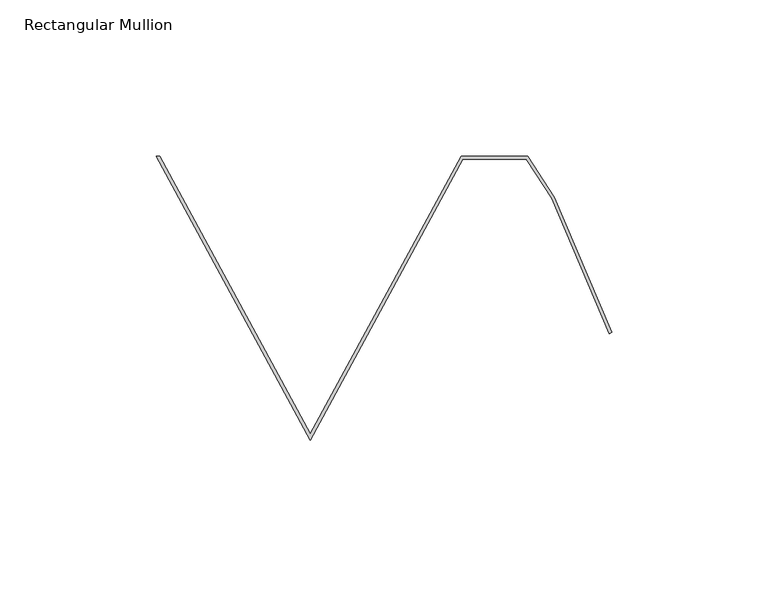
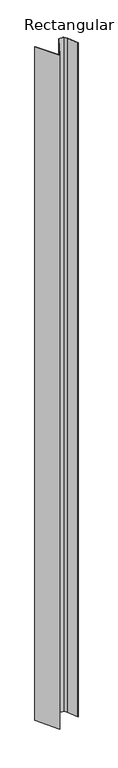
"""IFC4 building model written with IfcOpenShell, lengths in millimetres: member geometry, Rectangular Mullion : CD_NINELINE_Pleat Start."""

import ifcopenshell
import ifcopenshell.guid

model = None  # the IFC model being written
_history = None  # IfcOwnerHistory: only IFC2X3 demands one
_inside = {}  # id of a spatial element -> (the spatial element, [elements in it])
_under = {}  # id of a project, library or spatial element -> (it, [spatial elements below it])
_declared = {}  # id of a project -> (the project, [libraries it declares])
_typed = {}  # id of a type object -> (the type object, [elements of that type])
_made_of = {}  # id of a material, layer set ... -> (it, [elements and type objects made of it])


def new_model(schema):
    """Start an empty IFC model of exactly this schema.

    Asked for "IFC4X3", IfcOpenShell would pick the latest addendum, in which some entities
    have other attributes; the version numbers below select the first issue.
    IFC2X3 requires an IfcOwnerHistory on every rooted entity: one is made here for all.
    """
    global model, _history
    if schema == "IFC4X3":
        model = ifcopenshell.file(schema_version=(4, 3, 0, 0))
    else:
        model = ifcopenshell.file(schema=schema)
    _inside.clear()
    _under.clear()
    _declared.clear()
    _typed.clear()
    _made_of.clear()
    _history = None
    if model.schema == "IFC2X3":
        org = make("IfcOrganization", Name="unknown")
        user = make(
            "IfcPersonAndOrganization",
            ThePerson=make("IfcPerson", FamilyName="unknown"),
            TheOrganization=org,
        )
        app = make(
            "IfcApplication",
            ApplicationDeveloper=org,
            Version="unknown",
            ApplicationFullName="unknown",
            ApplicationIdentifier="unknown",
        )
        _history = make(
            "IfcOwnerHistory",
            OwningUser=user,
            OwningApplication=app,
            ChangeAction="ADDED",
            CreationDate=0,
        )
    return model


def make(cls, **values):
    """One entity of the class cls with the attributes given. An attribute that is None is left unset."""
    return model.create_entity(
        cls, **{name: value for name, value in values.items() if value is not None}
    )


def rooted(cls, **values):
    """An entity with a GlobalId (a new one), such as an element, a storey or a relation."""
    return make(cls, GlobalId=ifcopenshell.guid.new(), OwnerHistory=_history, **values)


def si_unit(unit_type, name, prefix=None):
    """IfcSIUnit, for example si_unit("LENGTHUNIT", "METRE", prefix="MILLI")."""
    return make("IfcSIUnit", UnitType=unit_type, Prefix=prefix, Name=name)


def assignment(units):
    """IfcUnitAssignment: the units of a project."""
    return None if units is None else make("IfcUnitAssignment", Units=units)


def point(xyz):
    """IfcCartesianPoint."""
    return None if xyz is None else make("IfcCartesianPoint", Coordinates=xyz)


def direction(xyz):
    """IfcDirection."""
    return None if xyz is None else make("IfcDirection", DirectionRatios=xyz)


def frame(location, z_axis=None, x_axis=None):
    """IfcAxis2Placement3D, a coordinate frame: its origin and axes. An axis left out is left unset."""
    return make(
        "IfcAxis2Placement3D",
        Location=point(location),
        Axis=direction(z_axis),
        RefDirection=direction(x_axis),
    )


def origin():
    """The frame at (0, 0, 0) with its axes left unset."""
    return frame((0.0, 0.0, 0.0))


def place(relative_to, where):
    """IfcLocalPlacement: puts the frame where relative to a parent placement (None: the world)."""
    return make(
        "IfcLocalPlacement", PlacementRelTo=relative_to, RelativePlacement=where
    )


def context(
    kind, dimensions, precision=None, world=None, true_north=None, identifier=None
):
    """IfcGeometricRepresentationContext, for example the 3D "Model" context."""
    return make(
        "IfcGeometricRepresentationContext",
        ContextIdentifier=identifier,
        ContextType=kind,
        CoordinateSpaceDimension=dimensions,
        Precision=precision,
        WorldCoordinateSystem=world,
        TrueNorth=true_north,
    )


def project(units=None, contexts=None):
    """IfcProject with its units and contexts."""
    return rooted(
        "IfcProject",
        Name="project",
        RepresentationContexts=contexts,
        UnitsInContext=assignment(units),
    )


def spatial(cls, under=None, at=None, **own):
    """A site, building, storey or space (cls), placed at a placement, below another one or the project."""
    s = rooted(cls, ObjectPlacement=at, **own)
    if under is not None:
        _under.setdefault(under.id(), (under, []))[1].append(s)
    return s


def polyline(points):
    """IfcPolyline through the points."""
    return make("IfcPolyline", Points=[point(p) for p in points])


def outline(outer, holes=None, kind="AREA"):
    """IfcArbitraryClosedProfileDef: a profile drawn as a closed curve; with holes, ...WithVoids."""
    if holes is None:
        return make("IfcArbitraryClosedProfileDef", ProfileType=kind, OuterCurve=outer)
    return make(
        "IfcArbitraryProfileDefWithVoids",
        ProfileType=kind,
        OuterCurve=outer,
        InnerCurves=holes,
    )


def extrude(swept, where, along, depth):
    """IfcExtrudedAreaSolid: the profile swept, set in the frame where, extruded along a direction by depth."""
    return make(
        "IfcExtrudedAreaSolid",
        SweptArea=swept,
        Position=where,
        ExtrudedDirection=direction(along),
        Depth=depth,
    )


def shape(context_of_items, identifier, shape_type, items):
    """IfcShapeRepresentation: the items that make up one representation, for example the "Body"."""
    return make(
        "IfcShapeRepresentation",
        ContextOfItems=context_of_items,
        RepresentationIdentifier=identifier,
        RepresentationType=shape_type,
        Items=items,
    )


def source(mapping_origin, context_of_items, identifier, shape_type, items):
    """IfcRepresentationMap: a shape defined once, which mapped items show again and again."""
    return make(
        "IfcRepresentationMap",
        MappingOrigin=mapping_origin,
        MappedRepresentation=shape(context_of_items, identifier, shape_type, items),
    )


def transform(
    local_origin,
    x_axis=None,
    y_axis=None,
    z_axis=None,
    scale=None,
    scale2=None,
    scale3=None,
    uniform=True,
):
    """IfcCartesianTransformationOperator3D, or its non-uniform kind. x_axis, y_axis, z_axis: its Axis1, 2, 3."""
    if uniform:
        return make(
            "IfcCartesianTransformationOperator3D",
            Axis1=direction(x_axis),
            Axis2=direction(y_axis),
            LocalOrigin=point(local_origin),
            Scale=scale,
            Axis3=direction(z_axis),
        )
    return make(
        "IfcCartesianTransformationOperator3DnonUniform",
        Axis1=direction(x_axis),
        Axis2=direction(y_axis),
        LocalOrigin=point(local_origin),
        Scale=scale,
        Axis3=direction(z_axis),
        Scale2=scale2,
        Scale3=scale3,
    )


def mapped(mapping_source, mapping_target):
    """IfcMappedItem: shows the shape of a source again, moved by a transform."""
    return make(
        "IfcMappedItem", MappingSource=mapping_source, MappingTarget=mapping_target
    )


def made_of(thing, what):
    """Note that an element or type object is made of a material, layer set ...; save() writes the relation."""
    if what is not None:
        _made_of.setdefault(what.id(), (what, []))[1].append(thing)
    return thing


def element(
    cls,
    number,
    at=None,
    inside=None,
    cuts=None,
    type_object=None,
    material=None,
    context=None,
    identifier="Body",
    shape_type=None,
    held_by="IfcProductDefinitionShape",
    body=None,
    shapes=None,
    **own,
):
    """One element of the class cls, such as IfcWall. Its Tag is "e" and its number.

    at: its placement. inside: the storey or other place that contains it. cuts: it is an
    opening in that element (IfcRelVoidsElement). A single representation is given by context,
    identifier, shape_type and body (its items); several are given by shapes. held_by: the class
    of the entity that holds the representations. save() writes the other relations.
    """
    e = rooted(cls, Tag="e%d" % number, ObjectPlacement=at, **own)
    if body is not None:
        shapes = [shape(context, identifier, shape_type, body)]
    if shapes is not None:
        e.Representation = make(held_by, Representations=shapes)
    if inside is not None:
        _inside.setdefault(inside.id(), (inside, []))[1].append(e)
    if cuts is not None:
        rooted(
            "IfcRelVoidsElement", RelatingBuildingElement=cuts, RelatedOpeningElement=e
        )
    if type_object is not None:
        _typed.setdefault(type_object.id(), (type_object, []))[1].append(e)
    return made_of(e, material)


def aggregate(whole, parts):
    """IfcRelAggregates: a whole, such as a stair, and the parts it consists of."""
    return rooted("IfcRelAggregates", RelatingObject=whole, RelatedObjects=parts)


def save(model, path):
    """Write the relations noted so far, then the file.

    IfcRelAggregates (storeys below a building ...), IfcRelContainedInSpatialStructure (elements
    in a storey), IfcRelDefinesByType, IfcRelAssociatesMaterial and IfcRelDeclares: one each for
    every whole, place, type object, material and project.
    """
    for whole, parts in _under.values():
        aggregate(whole, parts)
    for where, things in _inside.values():
        rooted(
            "IfcRelContainedInSpatialStructure",
            RelatedElements=things,
            RelatingStructure=where,
        )
    for kind, things in _typed.values():
        rooted("IfcRelDefinesByType", RelatedObjects=things, RelatingType=kind)
    for what, things in _made_of.values():
        rooted("IfcRelAssociatesMaterial", RelatedObjects=things, RelatingMaterial=what)
    for by, libraries in _declared.values():
        rooted("IfcRelDeclares", RelatingContext=by, RelatedDefinitions=libraries)
    model.write(path)


def rectangular_mullion_b048368e(model_context):
    return source(origin(), model_context, "Body", "SweptSolid", [
        extrude(outline(polyline([(-47.7222764, -1.0), (-96.5882894, -91.0), (-145.997258, 0.0), (-144.856794, 0.0), (-96.5882329, -88.9012056), (-48.3196718, 0.0), (-26.9107882, 0.0), (-18.3986164, -13.1078083), (0.0, -56.4531277), (-0.9204563, -56.8438302), (-19.2850663, -13.5795203), (-27.4543023, -1.0), (-47.7222764, -1.0)])), frame((0.0, 0.0, -2947.0), z_axis=(0.0, 0.0, 1.0), x_axis=(1.0, 0.0, 0.0)), (0.0, 0.0, 1.0), 2947.0),
    ])


if __name__ == "__main__":
    model = new_model("IFC4")
    model_context = context("Model", 3, world=origin())
    ifc_project = project(units=[si_unit("LENGTHUNIT", "METRE", prefix="MILLI")], contexts=[model_context])
    site = spatial("IfcSite", under=ifc_project)
    building = spatial("IfcBuilding", under=site)
    placement = place(None, origin())
    rectangular_mullion_shape = rectangular_mullion_b048368e(model_context)
    element("IfcMember", 1, ObjectType="Rectangular Mullion : CD_NINELINE_Pleat Start", at=placement, inside=building, context=model_context, shape_type="MappedRepresentation", body=[
        mapped(rectangular_mullion_shape, transform((0.0, 0.0, 0.0), x_axis=(1.0, 0.0, 0.0), y_axis=(0.0, 1.0, 0.0), z_axis=(0.0, 0.0, 1.0))),
    ])
    save(model, "model.ifc")
